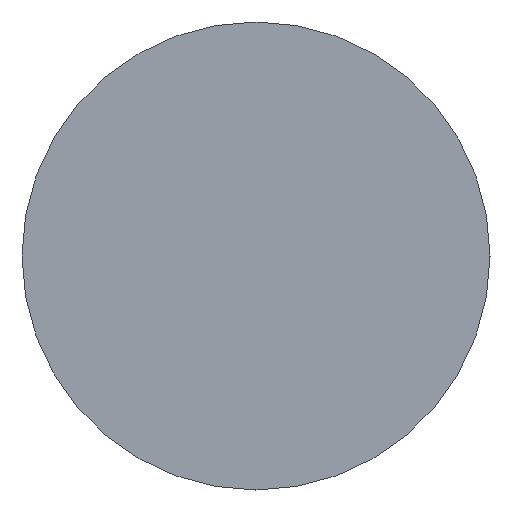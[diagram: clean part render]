
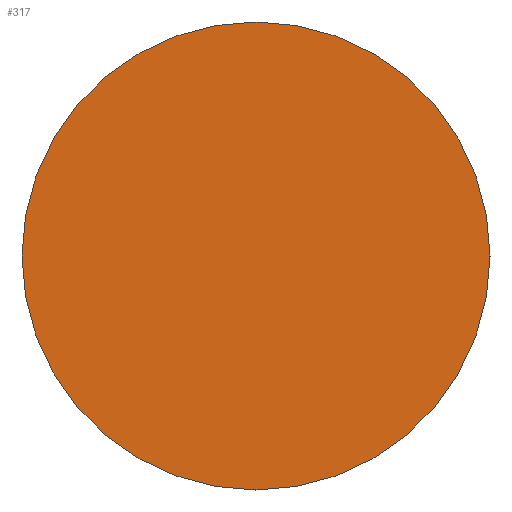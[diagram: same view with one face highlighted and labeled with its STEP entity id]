
A CAD part, left-side view. The second image highlights one B-rep face of the part: STEP entity #317.
In plain terms, the highlighted planar face has unit normal (-1, 0, 0).
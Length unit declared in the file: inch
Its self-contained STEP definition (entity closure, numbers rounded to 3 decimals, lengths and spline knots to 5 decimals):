
#8 = AXIS2_PLACEMENT_3D ( 'NONE', #384, #144, #427 ) ;
#15 = CIRCLE ( 'NONE', #178, 0.0625 ) ;
#19 = DIRECTION ( 'NONE',  ( 1., 0., 0. ) ) ;
#49 = ORIENTED_EDGE ( 'NONE', *, *, #361, .T. ) ;
#53 = DIRECTION ( 'NONE',  ( 0., 0., -1. ) ) ;
#55 = EDGE_LOOP ( 'NONE', ( #49, #442 ) ) ;
#57 = FACE_OUTER_BOUND ( 'NONE', #55, .T. ) ;
#70 = DIRECTION ( 'NONE',  ( 0., 0., 1. ) ) ;
#99 = AXIS2_PLACEMENT_3D ( 'NONE', #336, #19, #53 ) ;
#144 = DIRECTION ( 'NONE',  ( -1., 0., 0. ) ) ;
#178 = AXIS2_PLACEMENT_3D ( 'NONE', #216, #292, #70 ) ;
#200 = PLANE ( 'NONE',  #99 ) ;
#216 = CARTESIAN_POINT ( 'NONE',  ( -2.5, 0., 0. ) ) ;
#292 = DIRECTION ( 'NONE',  ( -1., 0., 0. ) ) ;
#311 = VERTEX_POINT ( 'NONE', #375 ) ;
#317 = ADVANCED_FACE ( 'NONE', ( #57 ), #200, .F. ) ;
#336 = CARTESIAN_POINT ( 'NONE',  ( -2.5, 0.0625, 0. ) ) ;
#361 = EDGE_CURVE ( 'NONE', #376, #311, #362, .T. ) ;
#362 = CIRCLE ( 'NONE', #8, 0.0625 ) ;
#372 = EDGE_CURVE ( 'NONE', #311, #376, #15, .T. ) ;
#375 = CARTESIAN_POINT ( 'NONE',  ( -2.5, 0., -0.0625 ) ) ;
#376 = VERTEX_POINT ( 'NONE', #463 ) ;
#384 = CARTESIAN_POINT ( 'NONE',  ( -2.5, 0., 0. ) ) ;
#427 = DIRECTION ( 'NONE',  ( 0., 0., 1. ) ) ;
#442 = ORIENTED_EDGE ( 'NONE', *, *, #372, .T. ) ;
#463 = CARTESIAN_POINT ( 'NONE',  ( -2.5, 0., 0.0625 ) ) ;
